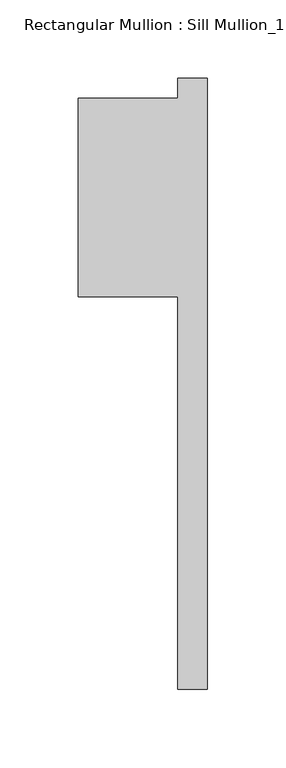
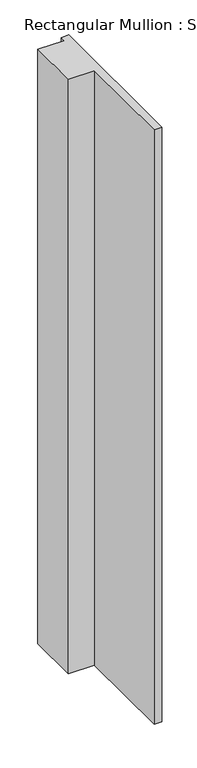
"""IFC4 building model written with IfcOpenShell, lengths in millimetres: member geometry."""

from ifc_helpers import new_model, si_unit, frame, origin, place, context, project, spatial, polyline, outline, extrude, source, transform, mapped, element, save


def member_27b1be32(model_context):
    return source(origin(), model_context, "Body", "SweptSolid", [
        extrude(outline(polyline([(-82.55, -50.8), (-82.55, 76.2), (-19.05, 76.2), (-19.05, 88.9), (0.0, 88.9), (0.0, -301.625), (-19.05, -301.625), (-19.05, -50.8), (-82.55, -50.8)])), frame((0.0, 0.0, -1524.0), z_axis=(0.0, 0.0, 1.0), x_axis=(1.0, 0.0, 0.0)), (0.0, 0.0, 1.0), 1524.0),
    ])


if __name__ == "__main__":
    model = new_model("IFC4")
    model_context = context("Model", 3, world=origin())
    ifc_project = project(units=[si_unit("LENGTHUNIT", "METRE", prefix="MILLI")], contexts=[model_context])
    site = spatial("IfcSite", under=ifc_project)
    building = spatial("IfcBuilding", under=site)
    placement = place(None, origin())
    member_shape = member_27b1be32(model_context)
    element("IfcMember", 1, ObjectType="Rectangular Mullion : Sill Mullion_15\" thick wall", at=placement, inside=building, context=model_context, shape_type="MappedRepresentation", body=[
        mapped(member_shape, transform((0.0, 0.0, 0.0), x_axis=(1.0, 0.0, 0.0), y_axis=(0.0, 1.0, 0.0), z_axis=(0.0, 0.0, 1.0))),
    ])
    save(model, "model.ifc")
